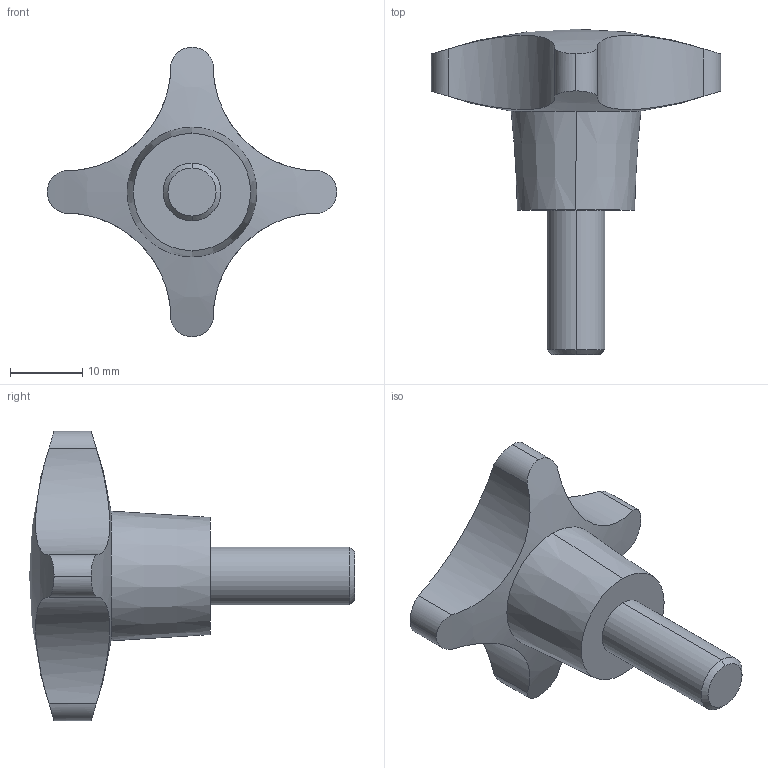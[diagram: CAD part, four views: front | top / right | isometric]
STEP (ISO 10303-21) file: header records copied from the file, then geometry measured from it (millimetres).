
FILE_DESCRIPTION (( 'STEP AP214' ), '1' );
FILE_NAME ('FGAR 6x20.step', '2017-04-05T07:36:49', ( '' ), ( '' ), 'SwSTEP 2.0', 'SolidWorks 2015', '' );
FILE_SCHEMA (( 'AUTOMOTIVE_DESIGN' ));
Length unit declared in the file: millimetre
Products named in the file (1): FGAR 6x20
Bounding box: 40 x 45 x 40 mm (x, y, z)
Volume: 9998.1 mm3; surface area: 3422.5 mm2
Topology: 1 solids, 1 shells, 22 faces, 55 edges, 35 vertices
Faces by surface type: cylinder 14, cone 4, plane 2, sphere 2
Entity records: 1063 total; most frequent: CARTESIAN_POINT 501, ORIENTED_EDGE 104, DIRECTION 84, EDGE_CURVE 52, VERTEX_POINT 34, AXIS2_PLACEMENT_3D 33, EDGE_LOOP 24, B_SPLINE_CURVE_WITH_KNOTS 24
